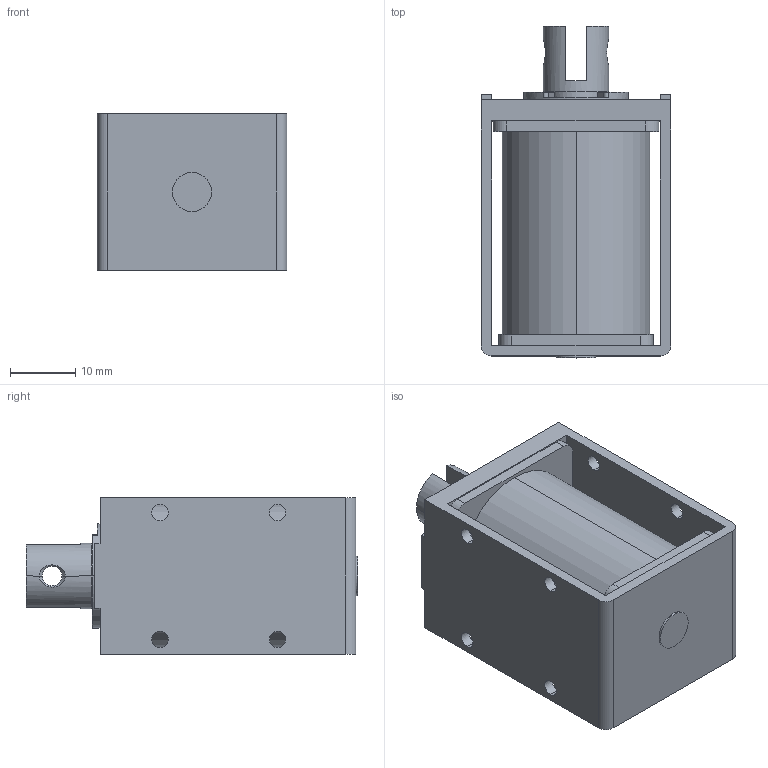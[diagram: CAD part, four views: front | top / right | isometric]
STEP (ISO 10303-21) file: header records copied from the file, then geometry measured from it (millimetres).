
FILE_DESCRIPTION (( 'STEP AP203' ), '1' );
FILE_NAME ('w_ca1040.STEP', '2014-07-14T02:07:09', ( 'jiba' ), ( 'Hewlett-Packard Company' ), 'SwSTEP 2.0', 'SolidWorks 2014', '' );
FILE_SCHEMA (( 'CONFIG_CONTROL_DESIGN' ));
Length unit declared in the file: millimetre
Products named in the file (3): Part11^w_ca1040; Part1^w_ca1040_pl; w_ca1040
Assembly tree (2 placements, depth 2):
  w_ca1040
    Part11^w_ca1040
    Part1^w_ca1040_pl
Bounding box: 29 x 50.8 x 24 mm (x, y, z)
Volume: 20827.5 mm3; surface area: 10921 mm2
Topology: 2 solids, 2 shells, 125 faces, 339 edges, 218 vertices
Faces by surface type: cylinder 66, plane 55, cone 4
Entity records: 4446 total; most frequent: CARTESIAN_POINT 803, DIRECTION 747, ORIENTED_EDGE 678, EDGE_CURVE 339, AXIS2_PLACEMENT_3D 282, VERTEX_POINT 218, LINE 183, VECTOR 183
